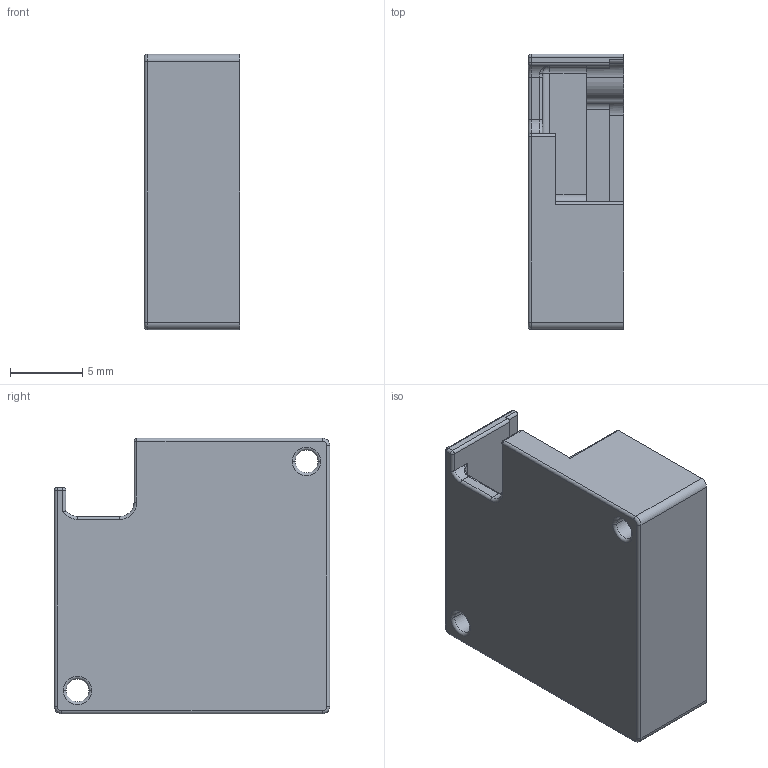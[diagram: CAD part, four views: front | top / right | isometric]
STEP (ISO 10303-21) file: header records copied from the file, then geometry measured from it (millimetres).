
FILE_DESCRIPTION(('CATIA V5 STEP Exchange'),'2;1');
FILE_NAME('C:\Users\dujian\Desktop\C20\Cam_Exd.stp','2024-05-28T03:21:55+00:00',('none'),('none'),'CATIA Version 5 Release 21 GA (IN-10)','CATIA V5 STEP AP203','none');
FILE_SCHEMA(('CONFIG_CONTROL_DESIGN'));
Length unit declared in the file: millimetre
Products named in the file (1): Cam_Exd
Bounding box: 6.6 x 19 x 19 mm (x, y, z)
Volume: 720.2 mm3; surface area: 1616 mm2
Topology: 1 solids, 1 shells, 145 faces, 368 edges, 206 vertices
Faces by surface type: cylinder 67, plane 35, torus 23, sphere 19, bspline 1
Entity records: 4096 total; most frequent: CARTESIAN_POINT 783, ORIENTED_EDGE 698, DIRECTION 609, EDGE_CURVE 349, AXIS2_PLACEMENT_3D 315, VERTEX_POINT 206, CIRCLE 182, VECTOR 163
